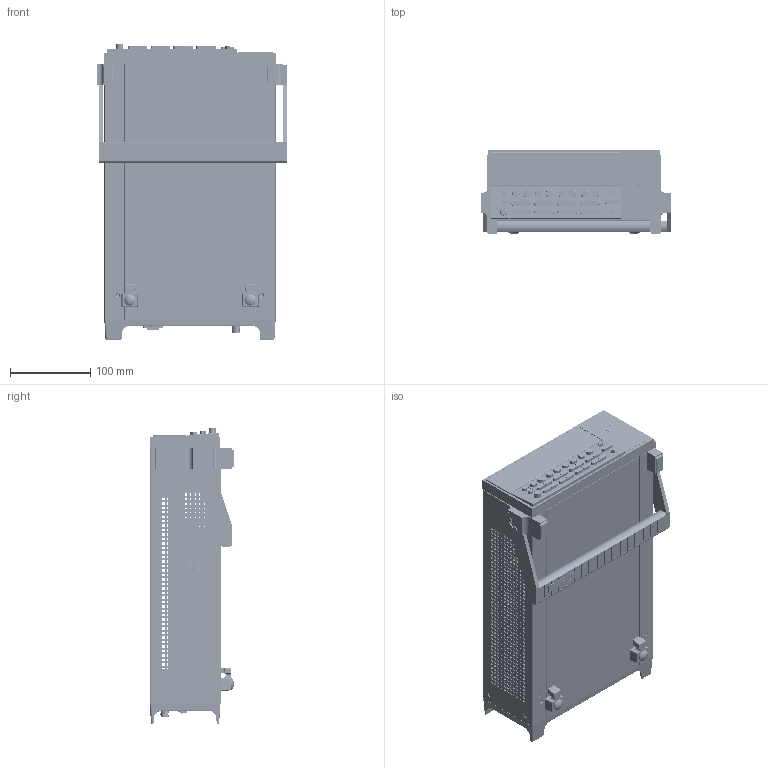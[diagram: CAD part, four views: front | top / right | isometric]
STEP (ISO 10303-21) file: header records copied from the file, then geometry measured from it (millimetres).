
FILE_DESCRIPTION((''),'2;1');
FILE_NAME('6517B_ASM','2015-09-08T',('jpeters'),('Keithley Instruments'),'CREO PARAMETRIC BY PTC INC, 2014440','CREO PARAMETRIC BY PTC INC, 2014440','');
FILE_SCHEMA(('CONFIG_CONTROL_DESIGN'));
Length unit declared in the file: inch
Products named in the file (51): 6517B-301; 6517B-301_ASM; 6517B-303; 6517B-304; 6517B-303_ASM; 6-32X1-4PFH; 6517B-302_ASM; 6-32KEPNUT; LF-20-1; CS-501; CS-1072-4; CS-762; 6517B-140_ASM; CS-713; CS-725; 7002-323-2; 6517B-130_ASM; BJ-18-0; BJ-18-2; CS-1304; 6517B-120_ASM; CS-995-NUTLESS; BJ-18-4; BJ-18-6; CS-823; CS-811; 6517B-100_ASM; 2602-358; 6517-318; 6517B-306_ASM; 6517B-310; 6517-311; 6517B-310_ASM; 6517B-311-040; 6517B-312; 6517B-311-MFG_ASM; 6517B-313; 6517B-313_ASM; 6517B-FRONT-PANEL_ASM; 2602-350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
Assembly tree (61 placements, depth 4):
  6517B_ASM
    6517B-302_ASM
      6517B-301_ASM
        6517B-301
      6517B-303_ASM
        6517B-303
        6517B-304
      6-32X1-4PFH  x2
    6-32KEPNUT
    LF-20-1
    6517B-140_ASM
      CS-501
      CS-1072-4
      CS-762
    CS-713  x2
    CS-725  x4
    6517B-130_ASM
      7002-323-2
    6517B-120_ASM
      BJ-18-0
      BJ-18-2
      CS-1304
    6517B-100_ASM
      CS-995-NUTLESS
      BJ-18-4
      BJ-18-0
      BJ-18-6
      CS-823
      CS-811
    6517B-FRONT-PANEL_ASM
      6517B-306_ASM
        2602-358
        6517-318
      6517B-310_ASM
        6517B-310
        6517-311
      6517B-311-MFG_ASM
        6517B-311-040
        6517B-312
      6517B-313_ASM
        6517B-313
    2602-350
    6517B-309
    6-32X3-16PPHSEM
    2001-372
    2602-352
    2602-354
    FE-22  x2
    2602-351  x2
    6-32X1-4PFH  x2
    FE-6  x2
    CS-1305
    2602-353
Bounding box: 236.73 x 105.44 x 369.6 mm (x, y, z)
Volume: 718362.7 mm3; surface area: 786593.2 mm2
Topology: 50 solids, 53 shells, 13994 faces, 38977 edges, 25623 vertices
Faces by surface type: plane 11896, cylinder 1722, cone 146, bspline 101, torus 93, sphere 36
Entity records: 446295 total; most frequent: CARTESIAN_POINT 86621, ORIENTED_EDGE 76432, DIRECTION 68000, EDGE_CURVE 38216, VECTOR 34136, LINE 34136, VERTEX_POINT 25154, EDGE_LOOP 17106
